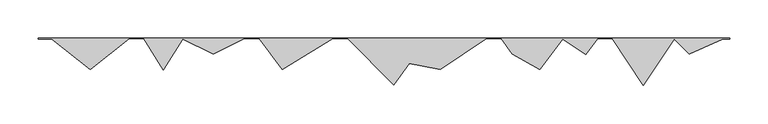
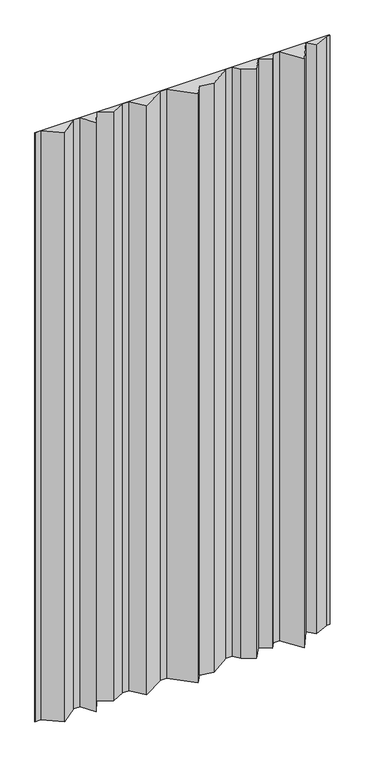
"""IFC4 building model written with IfcOpenShell, lengths in millimetres: plate geometry, ATELIERS 3S_GLACE JORASSES 900_VERTICAL : AZURO."""

from ifc_helpers import new_model, si_unit, origin, origin_with_axes, place, context, project, spatial, polyline, outline, extrude, source, transform, mapped, element, save


def plate_3223cf87(model_context):
    return source(origin(), model_context, "Body", "SweptSolid", [
        extrude(outline(polyline([(-450.0000002, -0.8), (-450.0000002, 0.0), (449.9999998, 0.0), (449.9999998, -0.8), (440.8519066, -0.8), (397.319651, -20.9020366), (377.9078713, -1.1833465), (337.7953811, -61.3520817), (297.3939933, -0.75), (278.1693821, -0.75), (262.9012479, -21.017335), (232.9658754, -1.015923), (202.6340498, -40.9801401), (167.2874668, -20.572781), (152.4203811, -0.75), (133.0224628, -0.75), (72.9573544, -40.7934056), (33.1230981, -33.3290095), (12.8856381, -61.1509172), (-47.5152791, -0.75), (-66.9923372, -0.75), (-132.3941615, -40.9972765), (-162.5796189, -0.75), (-182.0275679, -0.75), (-222.2046189, -20.8385255), (-261.9300609, -0.9758045), (-287.2046189, -41.4150972), (-312.6203046, -0.75), (-331.9415331, -0.75), (-382.2046189, -40.9604686), (-432.4052047, -0.8), (-450.0000002, -0.8)])), origin_with_axes(), (0.0, 0.0, 1.0), 1900.0),
    ])


if __name__ == "__main__":
    model = new_model("IFC4")
    model_context = context("Model", 3, world=origin())
    ifc_project = project(units=[si_unit("LENGTHUNIT", "METRE", prefix="MILLI")], contexts=[model_context])
    site = spatial("IfcSite", under=ifc_project)
    building = spatial("IfcBuilding", under=site)
    placement = place(None, origin())
    plate_shape = plate_3223cf87(model_context)
    element("IfcPlate", 1, ObjectType="ATELIERS 3S_GLACE JORASSES 900_VERTICAL : AZURO", at=placement, inside=building, context=model_context, shape_type="MappedRepresentation", body=[
        mapped(plate_shape, transform((0.0, 0.0, 0.0), x_axis=(1.0, 0.0, 0.0), y_axis=(0.0, 1.0, 0.0), z_axis=(0.0, 0.0, 1.0))),
    ])
    save(model, "model.ifc")
